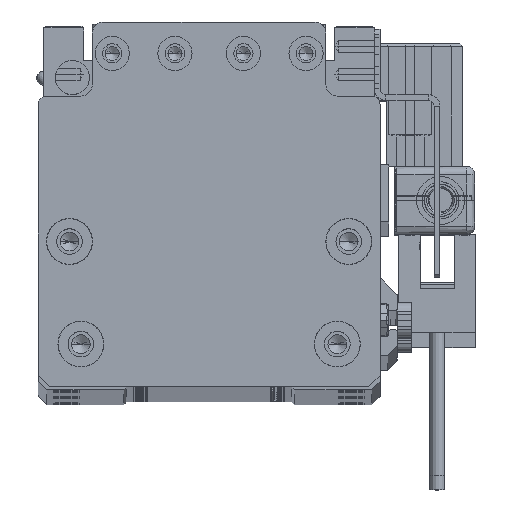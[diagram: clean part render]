
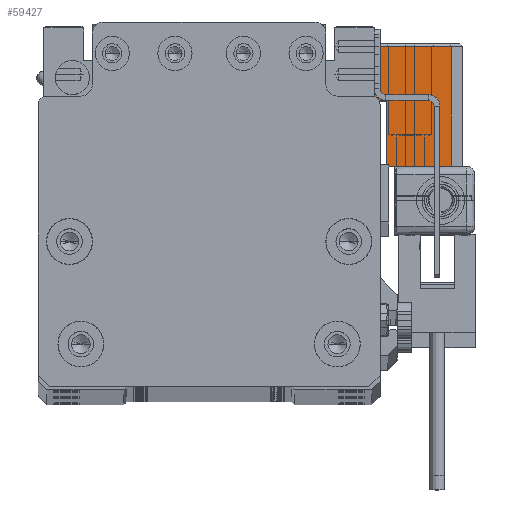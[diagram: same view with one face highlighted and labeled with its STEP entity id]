
A CAD part, top view. The second image highlights one B-rep face of the part: STEP entity #59427.
In plain terms, the highlighted planar face has unit normal (0, 0, 1) as drawn and (-1, 0, 0) by its records, which use the part's own axes.
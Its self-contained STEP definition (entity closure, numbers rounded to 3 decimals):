
#927 = CARTESIAN_POINT ( 'NONE',  ( -17., -10.75, -2. ) ) ;
#5690 = CARTESIAN_POINT ( 'NONE',  ( -17., -10.75, -13.3 ) ) ;
#7498 = VECTOR ( 'NONE', #51750, 1000. ) ;
#7800 = EDGE_CURVE ( 'NONE', #66885, #57065, #66190, .T. ) ;
#8939 = CARTESIAN_POINT ( 'NONE',  ( -17., 10.25, -2. ) ) ;
#9341 = CARTESIAN_POINT ( 'NONE',  ( -17., 10.75, -2. ) ) ;
#9651 = ORIENTED_EDGE ( 'NONE', *, *, #25107, .T. ) ;
#10210 = LINE ( 'NONE', #16944, #48430 ) ;
#12007 = DIRECTION ( 'NONE',  ( -1., 0., 0. ) ) ;
#12266 = LINE ( 'NONE', #19083, #7498 ) ;
#15947 = CARTESIAN_POINT ( 'NONE',  ( -17., 10.25, -15.5 ) ) ;
#16698 = CARTESIAN_POINT ( 'NONE',  ( -17., -10.75, -15.5 ) ) ;
#16944 = CARTESIAN_POINT ( 'NONE',  ( -17., -10.75, -15.5 ) ) ;
#17182 = VERTEX_POINT ( 'NONE', #62929 ) ;
#19083 = CARTESIAN_POINT ( 'NONE',  ( -17., -10.75, -15.5 ) ) ;
#21315 = EDGE_CURVE ( 'NONE', #57065, #17182, #10210, .T. ) ;
#22456 = ORIENTED_EDGE ( 'NONE', *, *, #7800, .T. ) ;
#23840 = DIRECTION ( 'NONE',  ( 0., 1., 0. ) ) ;
#25107 = EDGE_CURVE ( 'NONE', #31913, #59524, #38671, .T. ) ;
#26018 = ORIENTED_EDGE ( 'NONE', *, *, #21315, .T. ) ;
#26884 = EDGE_CURVE ( 'NONE', #17182, #31913, #44541, .T. ) ;
#27764 = DIRECTION ( 'NONE',  ( 0., 0., -1. ) ) ;
#28160 = DIRECTION ( 'NONE',  ( 0., 0., 1. ) ) ;
#31913 = VERTEX_POINT ( 'NONE', #47839 ) ;
#33193 = PLANE ( 'NONE',  #43248 ) ;
#33500 = ORIENTED_EDGE ( 'NONE', *, *, #26884, .T. ) ;
#33553 = FACE_OUTER_BOUND ( 'NONE', #46698, .T. ) ;
#35521 = EDGE_CURVE ( 'NONE', #64245, #66885, #63912, .T. ) ;
#36799 = DIRECTION ( 'NONE',  ( 0., -1., 0. ) ) ;
#38671 = LINE ( 'NONE', #5690, #48116 ) ;
#39997 = CARTESIAN_POINT ( 'NONE',  ( -17., -10.75, -13.3 ) ) ;
#43248 = AXIS2_PLACEMENT_3D ( 'NONE', #16698, #12007, #28160 ) ;
#44541 = LINE ( 'NONE', #66469, #50617 ) ;
#46698 = EDGE_LOOP ( 'NONE', ( #65836, #22456, #26018, #33500, #9651, #52833 ) ) ;
#47839 = CARTESIAN_POINT ( 'NONE',  ( -17., 0.75, -13.3 ) ) ;
#48116 = VECTOR ( 'NONE', #59894, 1000. ) ;
#48430 = VECTOR ( 'NONE', #36799, 1000. ) ;
#48884 = VECTOR ( 'NONE', #23840, 1000. ) ;
#50617 = VECTOR ( 'NONE', #54604, 1000. ) ;
#51750 = DIRECTION ( 'NONE',  ( 0., 0., 1. ) ) ;
#52833 = ORIENTED_EDGE ( 'NONE', *, *, #68696, .T. ) ;
#54604 = DIRECTION ( 'NONE',  ( 0., 0., 1. ) ) ;
#57065 = VERTEX_POINT ( 'NONE', #61884 ) ;
#59427 = ADVANCED_FACE ( 'NONE', ( #33553 ), #33193, .T. ) ;
#59524 = VERTEX_POINT ( 'NONE', #39997 ) ;
#59894 = DIRECTION ( 'NONE',  ( 0., -1., 0. ) ) ;
#61884 = CARTESIAN_POINT ( 'NONE',  ( -17., 10.25, -15.5 ) ) ;
#62722 = VECTOR ( 'NONE', #27764, 1000. ) ;
#62929 = CARTESIAN_POINT ( 'NONE',  ( -17., 0.75, -15.5 ) ) ;
#63912 = LINE ( 'NONE', #9341, #48884 ) ;
#64245 = VERTEX_POINT ( 'NONE', #927 ) ;
#65836 = ORIENTED_EDGE ( 'NONE', *, *, #35521, .T. ) ;
#66190 = LINE ( 'NONE', #15947, #62722 ) ;
#66469 = CARTESIAN_POINT ( 'NONE',  ( -17., 0.75, -15.5 ) ) ;
#66885 = VERTEX_POINT ( 'NONE', #8939 ) ;
#68696 = EDGE_CURVE ( 'NONE', #59524, #64245, #12266, .T. ) ;
